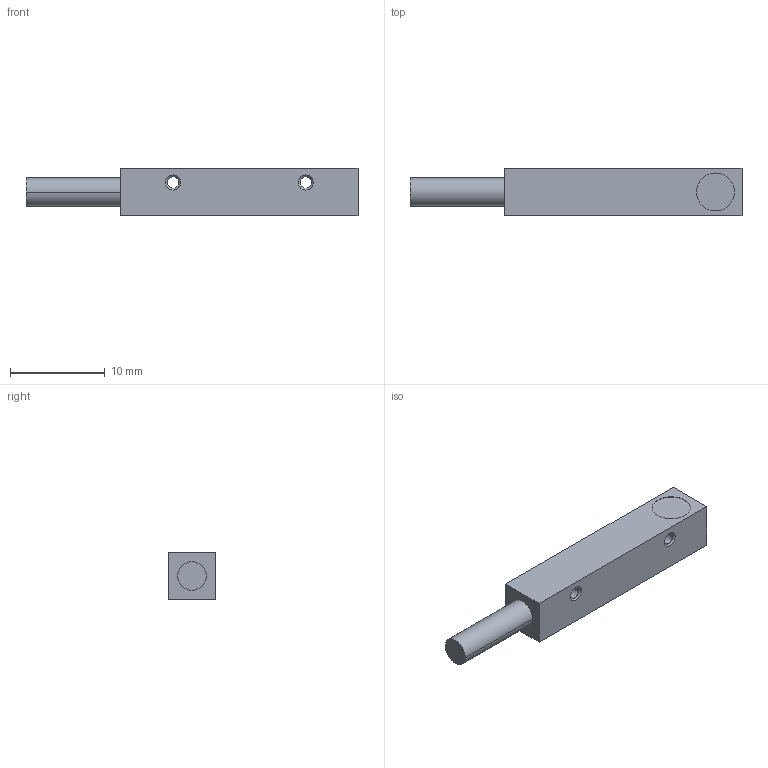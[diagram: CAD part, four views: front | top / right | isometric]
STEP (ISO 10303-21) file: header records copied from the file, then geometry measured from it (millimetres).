
FILE_DESCRIPTION( ( '' ), '1' );
FILE_NAME( '//partserver001.servicenet/client_exchange/iodir/jobs/output/wkb15102546_no0/STEP/il5022_2_03.stp', '2009-03-17T07:09:48', ( '' ), ( '' ), ' ', ' ', ' ' );
FILE_SCHEMA( ( 'CONFIG_CONTROL_DESIGN' ) );
Length unit declared in the file: millimetre
Products named in the file (1): 1
Bounding box: 35 x 5 x 5 mm (x, y, z)
Volume: 681.5 mm3; surface area: 680.2 mm2
Topology: 1 solids, 1 shells, 27 faces, 58 edges, 36 vertices
Faces by surface type: cylinder 10, plane 9, cone 8
Entity records: 788 total; most frequent: DIRECTION 142, CARTESIAN_POINT 122, ORIENTED_EDGE 116, EDGE_CURVE 58, AXIS2_PLACEMENT_3D 56, VERTEX_POINT 36, EDGE_LOOP 34, LINE 30
